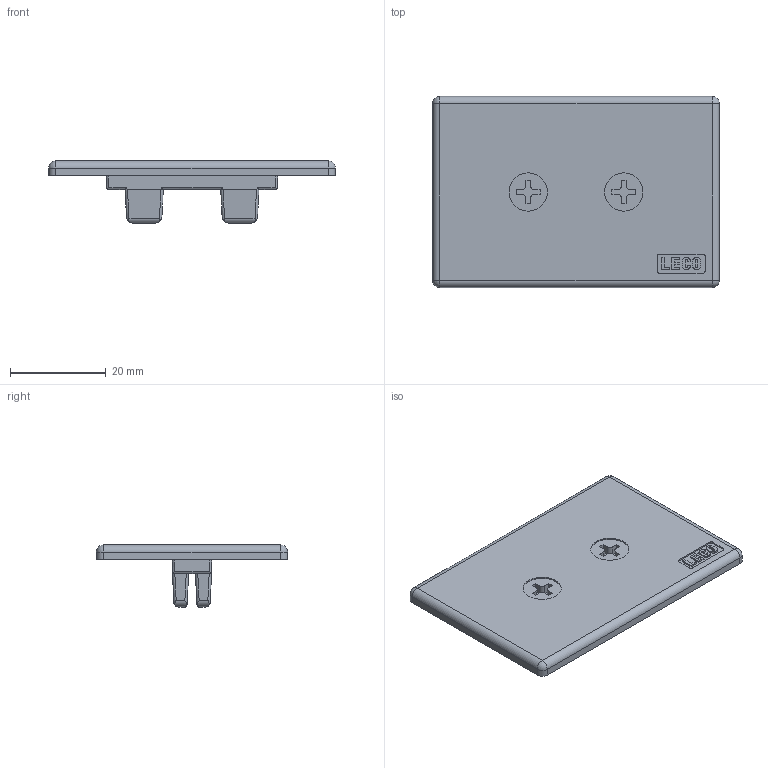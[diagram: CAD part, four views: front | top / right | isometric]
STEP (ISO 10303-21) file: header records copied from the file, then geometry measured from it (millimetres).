
FILE_DESCRIPTION(('STEP AP214'),'1');
FILE_NAME('EP46.stp','2017-07-24T04:56:56',(' '),(' '),'Spatial InterOp 3D',' ',' ');
FILE_SCHEMA(('automotive_design'));
Length unit declared in the file: millimetre
Products named in the file (1): EP46
Bounding box: 60 x 40 x 13 mm (x, y, z)
Volume: 7900.2 mm3; surface area: 6471.4 mm2
Topology: 1 solids, 1 shells, 220 faces, 594 edges, 384 vertices
Faces by surface type: plane 114, cylinder 102, sphere 4
Full cylindrical faces by diameter (mm): 8 x2
Entity records: 8812 total; most frequent: CARTESIAN_POINT 1481, ORIENTED_EDGE 1176, DIRECTION 1146, EDGE_CURVE 588, AXIS2_PLACEMENT_3D 385, VERTEX_POINT 384, LINE 376, VECTOR 376
